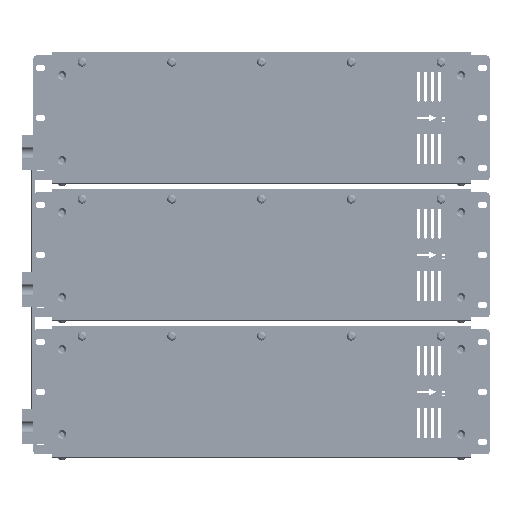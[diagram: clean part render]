
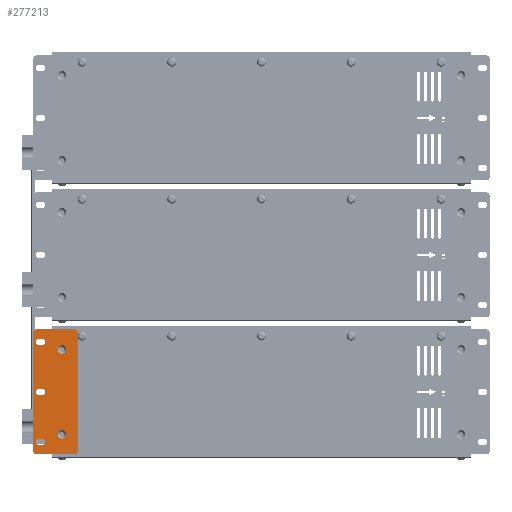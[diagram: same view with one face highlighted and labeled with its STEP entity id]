
A CAD part, front view. The second image highlights one B-rep face of the part: STEP entity #277213.
In plain terms, the highlighted planar face has unit normal (0, -1, 0).
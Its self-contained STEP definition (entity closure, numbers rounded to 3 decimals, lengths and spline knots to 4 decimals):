
#11327=FACE_BOUND('',#89239,.T.);
#11328=FACE_BOUND('',#89240,.T.);
#11329=FACE_BOUND('',#89241,.T.);
#11330=FACE_BOUND('',#89242,.T.);
#11331=FACE_BOUND('',#89243,.T.);
#15380=PLANE('',#294069);
#28197=LINE('',#438543,#51186);
#28205=LINE('',#438565,#51194);
#28206=LINE('',#438570,#51195);
#28207=LINE('',#438574,#51196);
#28208=LINE('',#438580,#51197);
#28209=LINE('',#438584,#51198);
#28210=LINE('',#438588,#51199);
#28211=LINE('',#438592,#51200);
#28212=LINE('',#438596,#51201);
#28213=LINE('',#438600,#51202);
#51186=VECTOR('',#331989,0.3937);
#51194=VECTOR('',#332007,0.3937);
#51195=VECTOR('',#332012,0.3937);
#51196=VECTOR('',#332015,0.3937);
#51197=VECTOR('',#332020,0.3937);
#51198=VECTOR('',#332023,0.3937);
#51199=VECTOR('',#332026,0.3937);
#51200=VECTOR('',#332029,0.3937);
#51201=VECTOR('',#332032,0.3937);
#51202=VECTOR('',#332035,0.3937);
#74654=FACE_OUTER_BOUND('',#89238,.T.);
#89238=EDGE_LOOP('',(#207064,#207065,#207066,#207067,#207068,#207069,#207070,
#207071));
#89239=EDGE_LOOP('',(#207072));
#89240=EDGE_LOOP('',(#207073,#207074,#207075,#207076));
#89241=EDGE_LOOP('',(#207077,#207078,#207079,#207080));
#89242=EDGE_LOOP('',(#207081,#207082,#207083,#207084));
#89243=EDGE_LOOP('',(#207085));
#103247=CIRCLE('',#294067,0.1673);
#103249=CIRCLE('',#294070,0.1575);
#103250=CIRCLE('',#294071,0.1575);
#103251=CIRCLE('',#294072,0.1575);
#103252=CIRCLE('',#294073,0.1575);
#103253=CIRCLE('',#294074,0.1673);
#103254=CIRCLE('',#294075,0.1299);
#103255=CIRCLE('',#294076,0.1299);
#103256=CIRCLE('',#294077,0.1299);
#103257=CIRCLE('',#294078,0.1299);
#103258=CIRCLE('',#294079,0.1299);
#103259=CIRCLE('',#294080,0.1299);
#119346=VERTEX_POINT('',#438540);
#119347=VERTEX_POINT('',#438542);
#119353=VERTEX_POINT('',#438557);
#119355=VERTEX_POINT('',#438563);
#119356=VERTEX_POINT('',#438564);
#119357=VERTEX_POINT('',#438567);
#119358=VERTEX_POINT('',#438569);
#119359=VERTEX_POINT('',#438571);
#119360=VERTEX_POINT('',#438573);
#119361=VERTEX_POINT('',#438576);
#119362=VERTEX_POINT('',#438578);
#119363=VERTEX_POINT('',#438579);
#119364=VERTEX_POINT('',#438581);
#119365=VERTEX_POINT('',#438583);
#119366=VERTEX_POINT('',#438586);
#119367=VERTEX_POINT('',#438587);
#119368=VERTEX_POINT('',#438589);
#119369=VERTEX_POINT('',#438591);
#119370=VERTEX_POINT('',#438594);
#119371=VERTEX_POINT('',#438595);
#119372=VERTEX_POINT('',#438597);
#119373=VERTEX_POINT('',#438599);
#152115=EDGE_CURVE('',#119347,#119346,#28197,.T.);
#152122=EDGE_CURVE('',#119353,#119353,#103247,.T.);
#152125=EDGE_CURVE('',#119355,#119356,#28205,.T.);
#152126=EDGE_CURVE('',#119356,#119347,#103249,.T.);
#152127=EDGE_CURVE('',#119346,#119357,#103250,.T.);
#152128=EDGE_CURVE('',#119357,#119358,#28206,.T.);
#152129=EDGE_CURVE('',#119358,#119359,#103251,.T.);
#152130=EDGE_CURVE('',#119359,#119360,#28207,.T.);
#152131=EDGE_CURVE('',#119360,#119355,#103252,.T.);
#152132=EDGE_CURVE('',#119361,#119361,#103253,.T.);
#152133=EDGE_CURVE('',#119362,#119363,#28208,.T.);
#152134=EDGE_CURVE('',#119363,#119364,#103254,.T.);
#152135=EDGE_CURVE('',#119364,#119365,#28209,.T.);
#152136=EDGE_CURVE('',#119365,#119362,#103255,.T.);
#152137=EDGE_CURVE('',#119366,#119367,#28210,.T.);
#152138=EDGE_CURVE('',#119367,#119368,#103256,.T.);
#152139=EDGE_CURVE('',#119368,#119369,#28211,.T.);
#152140=EDGE_CURVE('',#119369,#119366,#103257,.T.);
#152141=EDGE_CURVE('',#119370,#119371,#28212,.T.);
#152142=EDGE_CURVE('',#119371,#119372,#103258,.T.);
#152143=EDGE_CURVE('',#119372,#119373,#28213,.T.);
#152144=EDGE_CURVE('',#119373,#119370,#103259,.T.);
#207064=ORIENTED_EDGE('',*,*,#152125,.T.);
#207065=ORIENTED_EDGE('',*,*,#152126,.T.);
#207066=ORIENTED_EDGE('',*,*,#152115,.T.);
#207067=ORIENTED_EDGE('',*,*,#152127,.T.);
#207068=ORIENTED_EDGE('',*,*,#152128,.T.);
#207069=ORIENTED_EDGE('',*,*,#152129,.T.);
#207070=ORIENTED_EDGE('',*,*,#152130,.T.);
#207071=ORIENTED_EDGE('',*,*,#152131,.T.);
#207072=ORIENTED_EDGE('',*,*,#152132,.F.);
#207073=ORIENTED_EDGE('',*,*,#152133,.T.);
#207074=ORIENTED_EDGE('',*,*,#152134,.T.);
#207075=ORIENTED_EDGE('',*,*,#152135,.T.);
#207076=ORIENTED_EDGE('',*,*,#152136,.T.);
#207077=ORIENTED_EDGE('',*,*,#152137,.T.);
#207078=ORIENTED_EDGE('',*,*,#152138,.T.);
#207079=ORIENTED_EDGE('',*,*,#152139,.T.);
#207080=ORIENTED_EDGE('',*,*,#152140,.T.);
#207081=ORIENTED_EDGE('',*,*,#152141,.T.);
#207082=ORIENTED_EDGE('',*,*,#152142,.T.);
#207083=ORIENTED_EDGE('',*,*,#152143,.T.);
#207084=ORIENTED_EDGE('',*,*,#152144,.T.);
#207085=ORIENTED_EDGE('',*,*,#152122,.F.);
#277213=ADVANCED_FACE('',(#74654,#11327,#11328,#11329,#11330,#11331),#15380,
 .T.);
#294067=AXIS2_PLACEMENT_3D('',#438558,#332000,#332001);
#294069=AXIS2_PLACEMENT_3D('',#438562,#332005,#332006);
#294070=AXIS2_PLACEMENT_3D('',#438566,#332008,#332009);
#294071=AXIS2_PLACEMENT_3D('',#438568,#332010,#332011);
#294072=AXIS2_PLACEMENT_3D('',#438572,#332013,#332014);
#294073=AXIS2_PLACEMENT_3D('',#438575,#332016,#332017);
#294074=AXIS2_PLACEMENT_3D('',#438577,#332018,#332019);
#294075=AXIS2_PLACEMENT_3D('',#438582,#332021,#332022);
#294076=AXIS2_PLACEMENT_3D('',#438585,#332024,#332025);
#294077=AXIS2_PLACEMENT_3D('',#438590,#332027,#332028);
#294078=AXIS2_PLACEMENT_3D('',#438593,#332030,#332031);
#294079=AXIS2_PLACEMENT_3D('',#438598,#332033,#332034);
#294080=AXIS2_PLACEMENT_3D('',#438601,#332036,#332037);
#331989=DIRECTION('',(0.,0.,1.));
#332000=DIRECTION('center_axis',(0.,-1.,0.));
#332001=DIRECTION('ref_axis',(-1.,0.,0.));
#332005=DIRECTION('center_axis',(0.,-1.,0.));
#332006=DIRECTION('ref_axis',(1.,0.,0.));
#332007=DIRECTION('',(1.,0.,0.));
#332008=DIRECTION('center_axis',(0.,-1.,0.));
#332009=DIRECTION('ref_axis',(0.,0.,-1.));
#332010=DIRECTION('center_axis',(0.,-1.,0.));
#332011=DIRECTION('ref_axis',(1.,0.,0.));
#332012=DIRECTION('',(-1.,0.,0.));
#332013=DIRECTION('center_axis',(0.,-1.,0.));
#332014=DIRECTION('ref_axis',(0.,0.,1.));
#332015=DIRECTION('',(0.,0.,-1.));
#332016=DIRECTION('center_axis',(0.,-1.,0.));
#332017=DIRECTION('ref_axis',(-1.,0.,0.));
#332018=DIRECTION('center_axis',(0.,-1.,0.));
#332019=DIRECTION('ref_axis',(-1.,0.,0.));
#332020=DIRECTION('',(-1.,0.,0.));
#332021=DIRECTION('center_axis',(0.,1.,0.));
#332022=DIRECTION('ref_axis',(0.,0.,-1.));
#332023=DIRECTION('',(1.,0.,0.));
#332024=DIRECTION('center_axis',(0.,1.,0.));
#332025=DIRECTION('ref_axis',(0.,0.,1.));
#332026=DIRECTION('',(-1.,0.,0.));
#332027=DIRECTION('center_axis',(0.,1.,0.));
#332028=DIRECTION('ref_axis',(0.,0.,-1.));
#332029=DIRECTION('',(1.,0.,0.));
#332030=DIRECTION('center_axis',(0.,1.,0.));
#332031=DIRECTION('ref_axis',(0.,0.,1.));
#332032=DIRECTION('',(-1.,0.,0.));
#332033=DIRECTION('center_axis',(0.,1.,0.));
#332034=DIRECTION('ref_axis',(0.,0.,-1.));
#332035=DIRECTION('',(1.,0.,0.));
#332036=DIRECTION('center_axis',(0.,1.,0.));
#332037=DIRECTION('ref_axis',(0.,0.,1.));
#438540=CARTESIAN_POINT('',(-6.2401,-0.1181,2.5749));
#438542=CARTESIAN_POINT('',(-6.2401,-0.1181,-2.0314));
#438543=CARTESIAN_POINT('',(-6.2401,-0.1181,-2.0314));
#438557=CARTESIAN_POINT('',(-6.7027,-0.1181,1.945));
#438558=CARTESIAN_POINT('Origin',(-6.87,-0.1181,
1.945));
#438562=CARTESIAN_POINT('Origin',(-7.1259,-0.1181,
0.2718));
#438563=CARTESIAN_POINT('',(-7.8543,-0.1181,-2.1889));
#438564=CARTESIAN_POINT('',(-6.3976,-0.1181,-2.1889));
#438565=CARTESIAN_POINT('',(-7.8543,-0.1181,-2.1889));
#438566=CARTESIAN_POINT('Origin',(-6.3976,-0.1181,
-2.0314));
#438567=CARTESIAN_POINT('',(-6.3976,-0.1181,2.7324));
#438568=CARTESIAN_POINT('Origin',(-6.3976,-0.1181,
2.5749));
#438569=CARTESIAN_POINT('',(-7.8543,-0.1181,2.7324));
#438570=CARTESIAN_POINT('',(-6.3976,-0.1181,2.7324));
#438571=CARTESIAN_POINT('',(-8.0118,-0.1181,2.5749));
#438572=CARTESIAN_POINT('Origin',(-7.8543,-0.1181,
2.5749));
#438573=CARTESIAN_POINT('',(-8.0118,-0.1181,-2.0314));
#438574=CARTESIAN_POINT('',(-8.0118,-0.1181,2.5749));
#438575=CARTESIAN_POINT('Origin',(-7.8543,-0.1181,
-2.0314));
#438576=CARTESIAN_POINT('',(-6.7027,-0.1181,-1.4015));
#438577=CARTESIAN_POINT('Origin',(-6.87,-0.1181,-1.4015));
#438578=CARTESIAN_POINT('',(-7.6574,-0.1181,-1.8267));
#438579=CARTESIAN_POINT('',(-7.7755,-0.1181,-1.8267));
#438580=CARTESIAN_POINT('',(-7.6574,-0.1181,-1.8267));
#438581=CARTESIAN_POINT('',(-7.7755,-0.1181,-1.5668));
#438582=CARTESIAN_POINT('Origin',(-7.7755,-0.1181,
-1.6967));
#438583=CARTESIAN_POINT('',(-7.6574,-0.1181,-1.5668));
#438584=CARTESIAN_POINT('',(-7.7755,-0.1181,-1.5668));
#438585=CARTESIAN_POINT('Origin',(-7.6574,-0.1181,
-1.6967));
#438586=CARTESIAN_POINT('',(-7.6574,-0.1181,0.1419));
#438587=CARTESIAN_POINT('',(-7.7755,-0.1181,0.1419));
#438588=CARTESIAN_POINT('',(-7.6574,-0.1181,0.1419));
#438589=CARTESIAN_POINT('',(-7.7755,-0.1181,0.4017));
#438590=CARTESIAN_POINT('Origin',(-7.7755,-0.1181,
0.2718));
#438591=CARTESIAN_POINT('',(-7.6574,-0.1181,0.4017));
#438592=CARTESIAN_POINT('',(-7.7755,-0.1181,0.4017));
#438593=CARTESIAN_POINT('Origin',(-7.6574,-0.1181,
0.2718));
#438594=CARTESIAN_POINT('',(-7.6574,-0.1181,2.1104));
#438595=CARTESIAN_POINT('',(-7.7755,-0.1181,2.1104));
#438596=CARTESIAN_POINT('',(-7.6574,-0.1181,2.1104));
#438597=CARTESIAN_POINT('',(-7.7755,-0.1181,2.3702));
#438598=CARTESIAN_POINT('Origin',(-7.7755,-0.1181,
2.2403));
#438599=CARTESIAN_POINT('',(-7.6574,-0.1181,2.3702));
#438600=CARTESIAN_POINT('',(-7.7755,-0.1181,2.3702));
#438601=CARTESIAN_POINT('Origin',(-7.6574,-0.1181,
2.2403));
